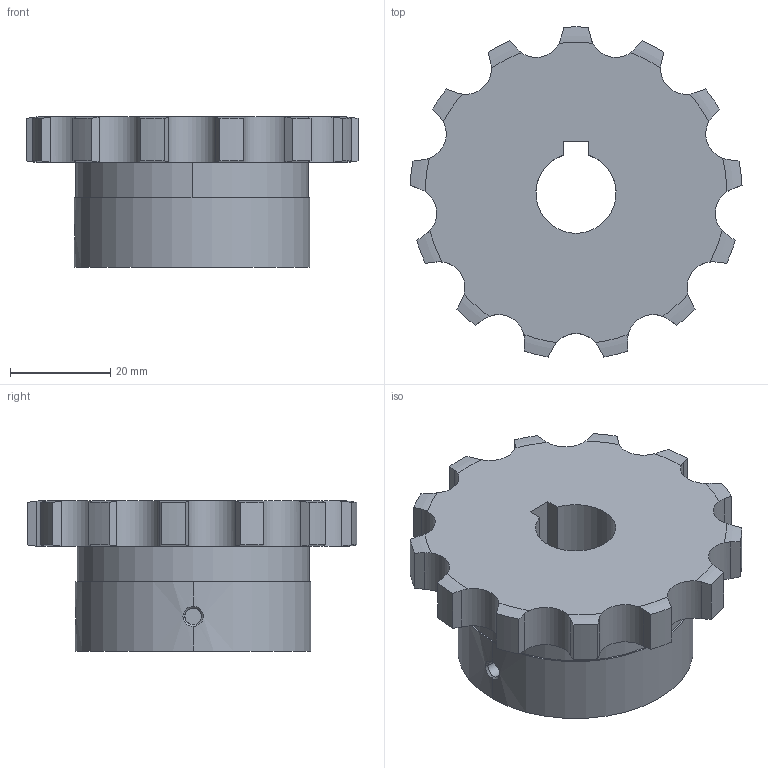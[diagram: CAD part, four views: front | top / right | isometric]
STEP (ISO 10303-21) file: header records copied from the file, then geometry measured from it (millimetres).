
FILE_DESCRIPTION((''),'2;1');
FILE_NAME('510-301-1613_PRT','2021-02-13T',('Brieden'),('Brieden'),'PRO/ENGINEER BY PARAMETRIC TECHNOLOGY CORPORATION, 2010160','PRO/ENGINEER BY PARAMETRIC TECHNOLOGY CORPORATION, 2010160','');
FILE_SCHEMA(('AUTOMOTIVE_DESIGN { 1 0 10303 214 1 1 1 1 }'));
Length unit declared in the file: millimetre
Products named in the file (1): 510-301-1613_PRT
Bounding box: 66.25 x 65.84 x 30 mm (x, y, z)
Volume: 55898.4 mm3; surface area: 12878.9 mm2
Topology: 1 solids, 1 shells, 101 faces, 285 edges, 188 vertices
Faces by surface type: cylinder 61, torus 26, plane 8, bspline 6
Entity records: 4888 total; most frequent: CARTESIAN_POINT 1499, ORIENTED_EDGE 570, DIRECTION 451, PRESENTATION_STYLE_ASSIGNMENT 286, STYLED_ITEM 286, CURVE_STYLE 285, EDGE_CURVE 285, VERTEX_POINT 188
